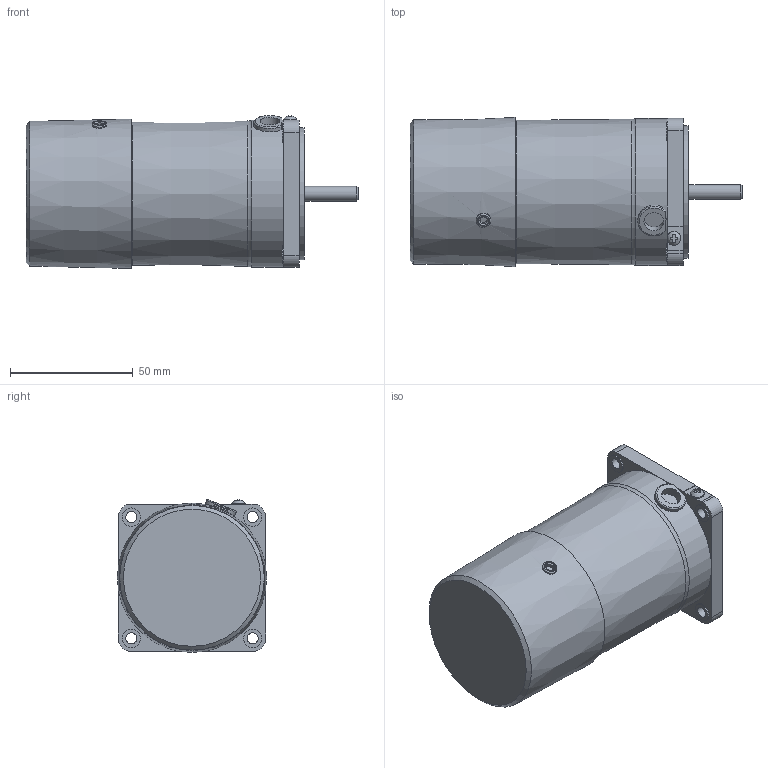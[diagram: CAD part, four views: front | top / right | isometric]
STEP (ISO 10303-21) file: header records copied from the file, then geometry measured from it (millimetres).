
FILE_DESCRIPTION(/* description */ (''),/* implementation_level */ '2;1');
FILE_NAME(/* name */ 'E:\도면작업\2016\0704) 미주향 SG 도면\3D MOTOR\ELECTROMAGNETIC BRAKE\SG6R06S_-E.stp',/* time_stamp */ '2017-03-21T13:50:46+09:00',/* author */ ('jy-jung'),/* organization */ (''),/* preprocessor_version */ 'ST-DEVELOPER v15.6',/* originating_system */ 'Autodesk Inventor 2015',/* authorisation */ '');
FILE_SCHEMA (('AUTOMOTIVE_DESIGN { 1 0 10303 214 3 1 1 }'));
Length unit declared in the file: millimetre
Products named in the file (1): 부품23
Bounding box: 135.5 x 60.94 x 62.38 mm (x, y, z)
Volume: 313988.5 mm3; surface area: 31243.8 mm2
Topology: 1 solids, 3 shells, 113 faces, 284 edges, 186 vertices
Faces by surface type: plane 66, cylinder 37, cone 5, torus 4, bspline 1
Full cylindrical faces by diameter (mm): 3.1 x1, 4.5 x4, 4.6 x1, 5 x1, 5.6 x1, 6 x2, 7.5 x4, 8 x1, 10.1 x1, 25 x1, 54 x1, 58.5 x1, 60 x1
Entity records: 3621 total; most frequent: CARTESIAN_POINT 832, DIRECTION 542, ORIENTED_EDGE 500, EDGE_CURVE 250, AXIS2_PLACEMENT_3D 206, VERTEX_POINT 179, EDGE_LOOP 165, LINE 130
